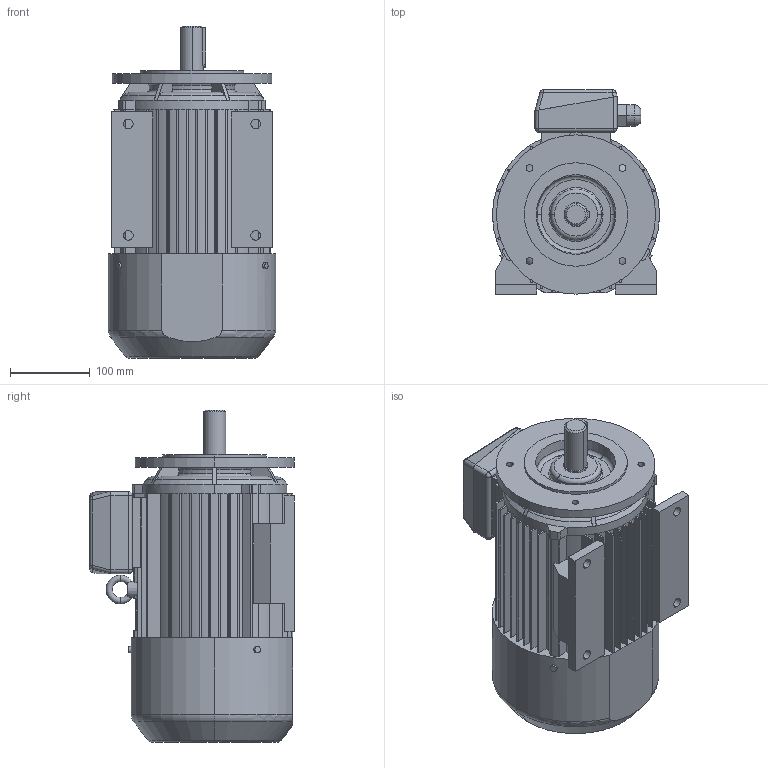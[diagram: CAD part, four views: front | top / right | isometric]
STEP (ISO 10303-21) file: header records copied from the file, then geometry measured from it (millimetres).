
FILE_DESCRIPTION (( 'STEP AP203' ), '1' );
FILE_NAME ('3SIEL100L4A,4B-B34-C1.STEP', '2016-02-08T12:15:58', ( 'Indukta' ), ( 'Celma Indukta S.A.' ), 'SwSTEP 2.0', 'SolidWorks 2003064', '' );
FILE_SCHEMA (( 'CONFIG_CONTROL_DESIGN' ));
Length unit declared in the file: millimetre
Products named in the file (1): 3SIEL100L4A,4B-B34-C1
Bounding box: 210 x 257 x 417 mm (x, y, z)
Volume: 11313842.7 mm3; surface area: 552636.9 mm2
Topology: 1 solids, 1 shells, 661 faces, 1792 edges, 1141 vertices
Faces by surface type: plane 335, cylinder 177, bspline 78, torus 43, cone 20, sphere 8
Entity records: 27650 total; most frequent: CARTESIAN_POINT 11265, ORIENTED_EDGE 3568, DIRECTION 3206, EDGE_CURVE 1784, VERTEX_POINT 1141, AXIS2_PLACEMENT_3D 1108, LINE 990, VECTOR 990
